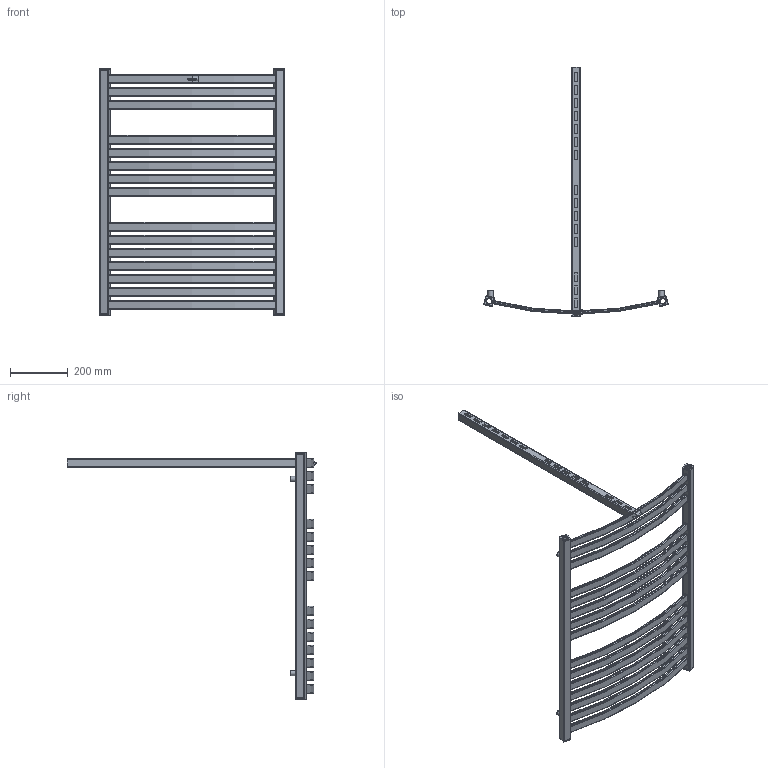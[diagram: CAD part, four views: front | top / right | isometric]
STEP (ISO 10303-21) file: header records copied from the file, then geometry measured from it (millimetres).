
FILE_DESCRIPTION( ( 'Unknown' ), '1' );
FILE_NAME( 'D:/Alplast sp. j/Witryna zespoBu - Projekty/Archiwum/Grzejniki Archiwum/Projekty/STANDARD/AK-EL/AK3-600EL.stp', 'Unknown', ( 'Unknown' ), ( 'Unknown' ), 'PSStep 10.1', 'Unknown', ' ' );
FILE_SCHEMA( ( 'AUTOMOTIVE_DESIGN { 1 0 10303 214 1 1 1 1 }' ) );
Length unit declared in the file: millimetre
Products named in the file (5): Assem1; zaslepka kwadrat otwor; tulejka kat 12stopni; kana³  poziomy lukowy L-600; AK3-EPEL
Bounding box: 635.8 x 861 x 850 mm (x, y, z)
Volume: 1401623.3 mm3; surface area: 1877203 mm2
Topology: 29 solids, 29 shells, 842 faces, 2342 edges, 1568 vertices
Faces by surface type: plane 376, cylinder 328, torus 138
Full cylindrical faces by diameter (mm): 16 x5, 18 x5, 18.631 x5, 23 x5
Entity records: 7792 total; most frequent: DIRECTION 1136, CARTESIAN_POINT 1078, ORIENTED_EDGE 1036, EDGE_CURVE 518, AXIS2_PLACEMENT_3D 408, VERTEX_POINT 350, LINE 320, VECTOR 320
